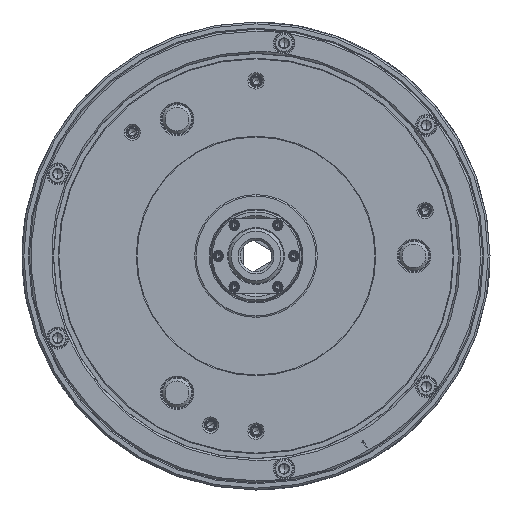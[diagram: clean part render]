
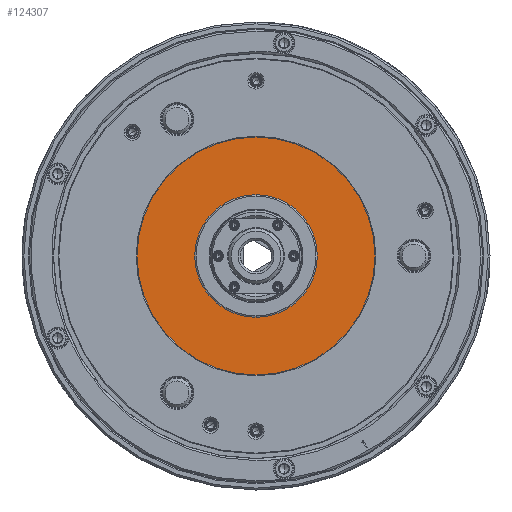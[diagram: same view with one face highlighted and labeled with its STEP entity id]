
A CAD part, left-side view. The second image highlights one B-rep face of the part: STEP entity #124307.
In plain terms, the highlighted planar face has unit normal (-1, 0, 0) as drawn and (0, 0, -1) by its records, which use the part's own axes.
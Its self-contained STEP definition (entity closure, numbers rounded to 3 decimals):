
#100 = CARTESIAN_POINT ( 'NONE',  ( -64.616, 0., -126.8 ) ) ;
#6800 = AXIS2_PLACEMENT_3D ( 'NONE', #118525, #104238, #143533 ) ;
#8669 = ORIENTED_EDGE ( 'NONE', *, *, #76966, .T. ) ;
#9697 = DIRECTION ( 'NONE',  ( -1., 0., 0. ) ) ;
#19107 = CIRCLE ( 'NONE', #28031, 33.3 ) ;
#25815 = AXIS2_PLACEMENT_3D ( 'NONE', #46844, #71849, #58497 ) ;
#28031 = AXIS2_PLACEMENT_3D ( 'NONE', #173146, #33942, #105268 ) ;
#33942 = DIRECTION ( 'NONE',  ( 0., 0., -1. ) ) ;
#46844 = CARTESIAN_POINT ( 'NONE',  ( 0., -64.616, -126.8 ) ) ;
#52144 = CARTESIAN_POINT ( 'NONE',  ( 0., 0., -126.8 ) ) ;
#54243 = VERTEX_POINT ( 'NONE', #100 ) ;
#55090 = CIRCLE ( 'NONE', #74905, 64.616 ) ;
#58497 = DIRECTION ( 'NONE',  ( 1., 0., 0. ) ) ;
#71849 = DIRECTION ( 'NONE',  ( 0., 0., 1. ) ) ;
#74905 = AXIS2_PLACEMENT_3D ( 'NONE', #145267, #173892, #9697 ) ;
#75745 = CARTESIAN_POINT ( 'NONE',  ( 64.616, 0., -126.8 ) ) ;
#76966 = EDGE_CURVE ( 'NONE', #54243, #79419, #55090, .T. ) ;
#78895 = DIRECTION ( 'NONE',  ( 0., 0., -1. ) ) ;
#79419 = VERTEX_POINT ( 'NONE', #75745 ) ;
#83672 = EDGE_CURVE ( 'NONE', #164059, #169722, #19107, .T. ) ;
#89470 = CIRCLE ( 'NONE', #6800, 64.616 ) ;
#96143 = CARTESIAN_POINT ( 'NONE',  ( -33.3, 0., -126.8 ) ) ;
#100312 = ORIENTED_EDGE ( 'NONE', *, *, #152277, .T. ) ;
#100360 = FACE_BOUND ( 'NONE', #113321, .T. ) ;
#103972 = AXIS2_PLACEMENT_3D ( 'NONE', #52144, #78895, #133331 ) ;
#104238 = DIRECTION ( 'NONE',  ( 0., 0., -1. ) ) ;
#105268 = DIRECTION ( 'NONE',  ( -1., 0., 0. ) ) ;
#108055 = ORIENTED_EDGE ( 'NONE', *, *, #168128, .F. ) ;
#113321 = EDGE_LOOP ( 'NONE', ( #152421, #108055 ) ) ;
#118525 = CARTESIAN_POINT ( 'NONE',  ( 0., 0., -126.8 ) ) ;
#124307 = ADVANCED_FACE ( 'NONE', ( #100360, #155715 ), #167361, .F. ) ;
#133331 = DIRECTION ( 'NONE',  ( -1., 0., 0. ) ) ;
#143533 = DIRECTION ( 'NONE',  ( -1., 0., 0. ) ) ;
#145267 = CARTESIAN_POINT ( 'NONE',  ( 0., 0., -126.8 ) ) ;
#149932 = EDGE_LOOP ( 'NONE', ( #8669, #100312 ) ) ;
#152277 = EDGE_CURVE ( 'NONE', #79419, #54243, #89470, .T. ) ;
#152421 = ORIENTED_EDGE ( 'NONE', *, *, #83672, .F. ) ;
#155715 = FACE_OUTER_BOUND ( 'NONE', #149932, .T. ) ;
#158142 = CIRCLE ( 'NONE', #103972, 33.3 ) ;
#158848 = CARTESIAN_POINT ( 'NONE',  ( 33.3, 0., -126.8 ) ) ;
#164059 = VERTEX_POINT ( 'NONE', #96143 ) ;
#167361 = PLANE ( 'NONE',  #25815 ) ;
#168128 = EDGE_CURVE ( 'NONE', #169722, #164059, #158142, .T. ) ;
#169722 = VERTEX_POINT ( 'NONE', #158848 ) ;
#173146 = CARTESIAN_POINT ( 'NONE',  ( 0., 0., -126.8 ) ) ;
#173892 = DIRECTION ( 'NONE',  ( 0., 0., -1. ) ) ;
